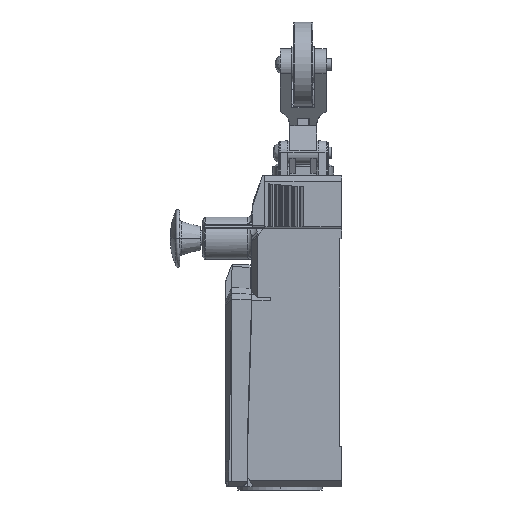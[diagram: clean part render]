
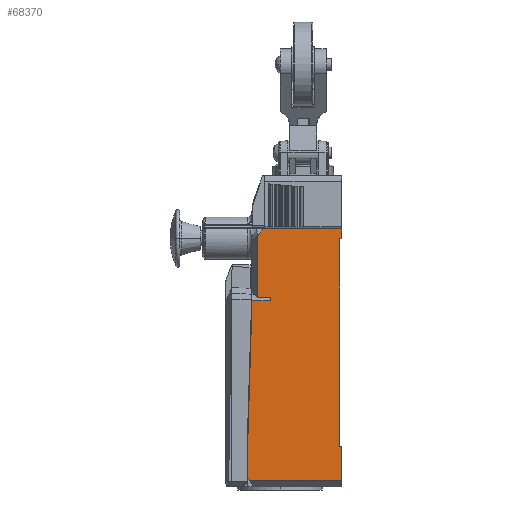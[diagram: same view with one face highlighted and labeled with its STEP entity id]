
A CAD part, left-side view. The second image highlights one B-rep face of the part: STEP entity #68370.
In plain terms, the highlighted planar face has unit normal (-1, 0, 0).
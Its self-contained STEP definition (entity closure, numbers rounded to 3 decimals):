
#10841=DIRECTION('',(0.,0.,-1.));
#10842=VECTOR('',#10841,2.6);
#10843=CARTESIAN_POINT('',(-15.25,-10.,-9.));
#10844=LINE('',#10843,#10842);
#14112=DIRECTION('',(0.,1.,0.));
#14113=VECTOR('',#14112,20.428);
#14114=CARTESIAN_POINT('',(-15.25,-10.,-9.));
#14115=LINE('',#14114,#14113);
#14126=DIRECTION('',(0.,0.,-1.));
#14127=VECTOR('',#14126,0.822);
#14128=CARTESIAN_POINT('',(-15.25,8.55,-26.878));
#14129=LINE('',#14128,#14127);
#14133=DIRECTION('',(0.,1.,0.));
#14134=VECTOR('',#14133,3.4);
#14135=CARTESIAN_POINT('',(-15.25,8.55,-26.878));
#14136=LINE('',#14135,#14134);
#14140=DIRECTION('',(0.,0.,1.));
#14141=VECTOR('',#14140,15.935);
#14142=CARTESIAN_POINT('',(-15.25,11.95,-26.878));
#14143=LINE('',#14142,#14141);
#14147=CARTESIAN_POINT('',(-15.25,10.428,-9.));
#14148=CARTESIAN_POINT('',(-15.25,10.494,-9.104));
#14149=CARTESIAN_POINT('',(-15.25,10.632,
-9.311));
#14150=CARTESIAN_POINT('',(-15.25,10.857,
-9.623));
#14151=CARTESIAN_POINT('',(-15.25,11.099,
-9.938));
#14152=CARTESIAN_POINT('',(-15.25,11.36,
-10.26));
#14153=CARTESIAN_POINT('',(-15.25,11.641,
-10.592));
#14154=CARTESIAN_POINT('',(-15.25,11.844,
-10.824));
#14155=CARTESIAN_POINT('',(-15.25,11.95,
-10.943));
#14160=DIRECTION('',(0.,1.,0.));
#14161=VECTOR('',#14160,0.5);
#14162=CARTESIAN_POINT('',(-15.25,-10.,-11.6));
#14163=LINE('',#14162,#14161);
#14167=DIRECTION('',(0.,0.,-1.));
#14168=VECTOR('',#14167,54.1);
#14169=CARTESIAN_POINT('',(-15.25,-9.5,-11.6));
#14170=LINE('',#14169,#14168);
#14174=DIRECTION('',(0.,1.,0.));
#14175=VECTOR('',#14174,0.5);
#14176=CARTESIAN_POINT('',(-15.25,-10.,-65.7));
#14177=LINE('',#14176,#14175);
#14181=DIRECTION('',(0.,-1.,0.));
#14182=VECTOR('',#14181,23.815);
#14183=CARTESIAN_POINT('',(-15.25,13.815,-74.65));
#14184=LINE('',#14183,#14182);
#14188=DIRECTION('',(0.,0.5,0.866));
#14189=VECTOR('',#14188,1.169);
#14190=CARTESIAN_POINT('',(-15.25,13.815,-74.65));
#14191=LINE('',#14190,#14189);
#14195=DIRECTION('',(0.,-0.03,1.));
#14196=VECTOR('',#14195,33.015);
#14197=CARTESIAN_POINT('',(-15.25,14.4,-64.235));
#14198=LINE('',#14197,#14196);
#14202=DIRECTION('',(0.,0.,1.));
#14203=VECTOR('',#14202,3.535);
#14204=CARTESIAN_POINT('',(-15.25,13.4,-31.235));
#14205=LINE('',#14204,#14203);
#14209=DIRECTION('',(0.,-1.,0.));
#14210=VECTOR('',#14209,4.85);
#14211=CARTESIAN_POINT('',(-15.25,13.4,-27.7));
#14212=LINE('',#14211,#14210);
#15134=CARTESIAN_POINT('',(-15.25,10.428,-9.));
#15198=CARTESIAN_POINT('',(-15.25,11.95,
-10.943));
#17483=DIRECTION('',(0.,0.,-1.));
#17484=VECTOR('',#17483,8.95);
#17485=CARTESIAN_POINT('',(-15.25,-10.,-65.7));
#17486=LINE('',#17485,#17484);
#38713=DIRECTION('',(0.,0.,-1.));
#38714=VECTOR('',#38713,9.402);
#38715=CARTESIAN_POINT('',(-15.25,14.4,-64.235));
#38716=LINE('',#38715,#38714);
#45010=CARTESIAN_POINT('',(-15.25,14.4,-73.637));
#45012=VERTEX_POINT('',#45010);
#45034=CARTESIAN_POINT('',(-15.25,14.4,-64.235));
#45035=VERTEX_POINT('',#45034);
#45053=CARTESIAN_POINT('',(-15.25,8.55,-27.7));
#45055=VERTEX_POINT('',#45053);
#45070=CARTESIAN_POINT('',(-15.25,-10.,-11.6));
#45071=VERTEX_POINT('',#45070);
#45084=CARTESIAN_POINT('',(-15.25,-9.5,-11.6));
#45085=CARTESIAN_POINT('',(-15.25,-9.5,-65.7));
#45086=VERTEX_POINT('',#45084);
#45087=VERTEX_POINT('',#45085);
#45088=CARTESIAN_POINT('',(-15.25,-10.,-65.7));
#45089=VERTEX_POINT('',#45088);
#45110=CARTESIAN_POINT('',(-15.25,13.4,-27.7));
#45111=VERTEX_POINT('',#45110);
#45120=CARTESIAN_POINT('',(-15.25,13.4,-31.235));
#45121=VERTEX_POINT('',#45120);
#46522=CARTESIAN_POINT('',(-15.25,-10.,-74.65));
#46523=VERTEX_POINT('',#46522);
#46528=CARTESIAN_POINT('',(-15.25,13.815,-74.65));
#46529=VERTEX_POINT('',#46528);
#47261=CARTESIAN_POINT('',(-15.25,-10.,-9.));
#47263=VERTEX_POINT('',#47261);
#49735=CARTESIAN_POINT('',(-15.25,11.95,-26.878));
#49737=VERTEX_POINT('',#49735);
#49845=VERTEX_POINT('',#15198);
#49859=VERTEX_POINT('',#15134);
#49986=CARTESIAN_POINT('',(-15.25,8.55,-26.878));
#49987=VERTEX_POINT('',#49986);
#68333=CARTESIAN_POINT('',(-15.25,16.7,2.));
#68334=DIRECTION('',(-1.,0.,0.));
#68335=DIRECTION('',(0.,-1.,0.));
#68336=AXIS2_PLACEMENT_3D('',#68333,#68334,#68335);
#68337=PLANE('',#68336);
#68339=ORIENTED_EDGE('',*,*,#68338,.F.);
#68341=ORIENTED_EDGE('',*,*,#68340,.T.);
#68343=ORIENTED_EDGE('',*,*,#68342,.T.);
#68345=ORIENTED_EDGE('',*,*,#68344,.F.);
#68346=ORIENTED_EDGE('',*,*,#68308,.F.);
#68347=ORIENTED_EDGE('',*,*,#64558,.T.);
#68349=ORIENTED_EDGE('',*,*,#68348,.T.);
#68351=ORIENTED_EDGE('',*,*,#68350,.T.);
#68353=ORIENTED_EDGE('',*,*,#68352,.F.);
#68355=ORIENTED_EDGE('',*,*,#68354,.T.);
#68357=ORIENTED_EDGE('',*,*,#68356,.F.);
#68359=ORIENTED_EDGE('',*,*,#68358,.T.);
#68361=ORIENTED_EDGE('',*,*,#68360,.F.);
#68363=ORIENTED_EDGE('',*,*,#68362,.T.);
#68365=ORIENTED_EDGE('',*,*,#68364,.T.);
#68367=ORIENTED_EDGE('',*,*,#68366,.T.);
#68368=EDGE_LOOP('',(#68339,#68341,#68343,#68345,#68346,#68347,#68349,#68351,
#68353,#68355,#68357,#68359,#68361,#68363,#68365,#68367));
#68369=FACE_OUTER_BOUND('',#68368,.F.);
#14156=B_SPLINE_CURVE_WITH_KNOTS('',3,(#14147,#14148,#14149,#14150,#14151,
#14152,#14153,#14154,#14155),.UNSPECIFIED.,.F.,.F.,(4,1,1,1,1,1,4),(0.,
0.167,0.333,0.5,0.667,0.833,
1.),.UNSPECIFIED.);
#64558=EDGE_CURVE('',#47263,#45071,#10844,.T.);
#68308=EDGE_CURVE('',#47263,#49859,#14115,.T.);
#68338=EDGE_CURVE('',#49987,#45055,#14129,.T.);
#68340=EDGE_CURVE('',#49987,#49737,#14136,.T.);
#68342=EDGE_CURVE('',#49737,#49845,#14143,.T.);
#68344=EDGE_CURVE('',#49859,#49845,#14156,.T.);
#68348=EDGE_CURVE('',#45071,#45086,#14163,.T.);
#68350=EDGE_CURVE('',#45086,#45087,#14170,.T.);
#68352=EDGE_CURVE('',#45089,#45087,#14177,.T.);
#68354=EDGE_CURVE('',#45089,#46523,#17486,.T.);
#68356=EDGE_CURVE('',#46529,#46523,#14184,.T.);
#68358=EDGE_CURVE('',#46529,#45012,#14191,.T.);
#68360=EDGE_CURVE('',#45035,#45012,#38716,.T.);
#68362=EDGE_CURVE('',#45035,#45121,#14198,.T.);
#68364=EDGE_CURVE('',#45121,#45111,#14205,.T.);
#68366=EDGE_CURVE('',#45111,#45055,#14212,.T.);
#68370=ADVANCED_FACE('',(#68369),#68337,.T.);
